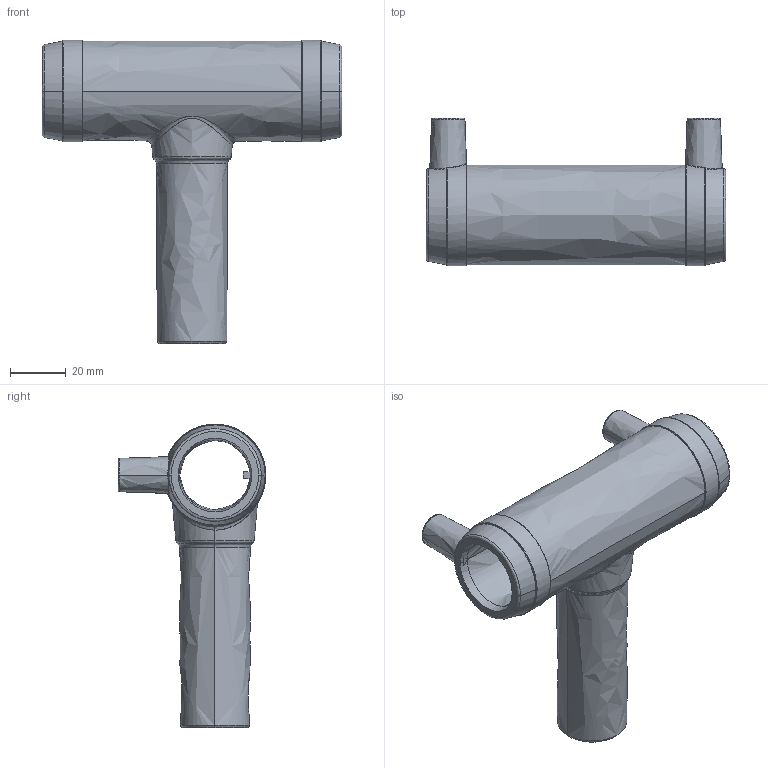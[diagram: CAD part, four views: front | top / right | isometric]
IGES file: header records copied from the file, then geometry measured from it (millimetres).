
Start section:  PTC IGES file: ta_d25-25_01.igs
Global section: file name: ta_d25-25_01.igs; native system: Pro/ENGINEER by Parametric Technology Corporation; preprocessor: 2011490; author: mtunjic; organization: Unknown; date: 20130812.120350; units: millimetre
Bounding box: 108 x 53.15 x 109.3 mm (x, y, z)
Surface area: 33065.7 mm2 (no closed solid volume)
Topology: 0 solids, 0 shells, 206 faces, 1030 edges, 1030 vertices
Faces by surface type: bspline 206
